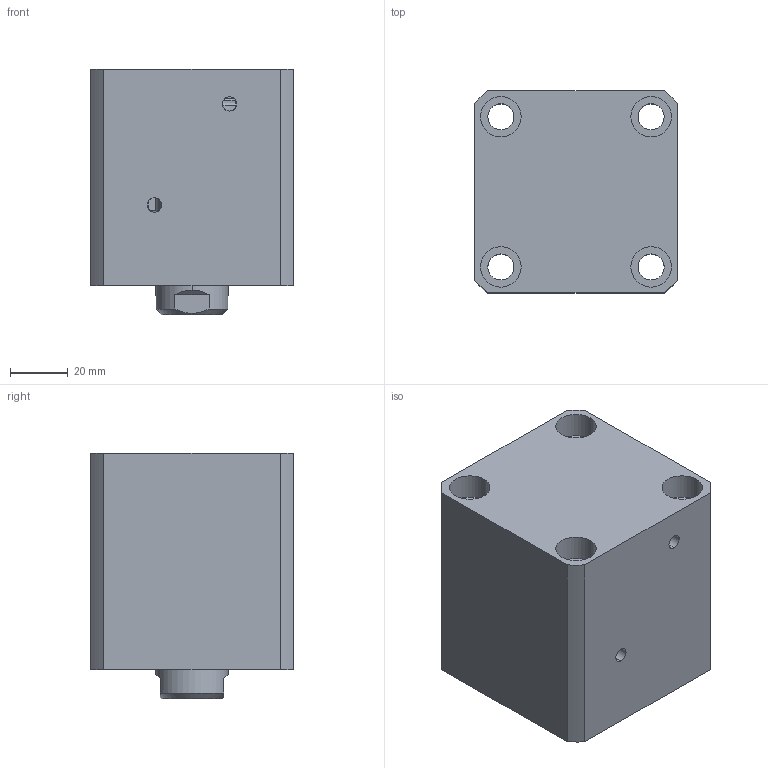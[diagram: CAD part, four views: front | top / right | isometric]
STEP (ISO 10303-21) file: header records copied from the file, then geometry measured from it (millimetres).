
FILE_DESCRIPTION (( 'STEP AP214' ), '1' );
FILE_NAME ('chtb-sdma40x20n_asm.STEP', '2018-06-06T07:42:57', ( 'Windows' ), ( 'Microsoft' ), 'SwSTEP 2.0', 'SolidWorks 2015', '' );
FILE_SCHEMA (( 'AUTOMOTIVE_DESIGN' ));
Length unit declared in the file: millimetre
Products named in the file (4): chtb-sdma40x20n_asm; CHTB-SDMA40X20NBT; CHTB-SD40X20NHSG; CHTB-SD40QG
Assembly tree (3 placements, depth 2):
  chtb-sdma40x20n_asm
    CHTB-SD40QG
    CHTB-SD40X20NHSG
    CHTB-SDMA40X20NBT
Bounding box: 70 x 70 x 85 mm (x, y, z)
Volume: 317541.8 mm3; surface area: 71289.4 mm2
Topology: 3 solids, 3 shells, 157 faces, 413 edges, 274 vertices
Faces by surface type: cylinder 84, plane 36, bspline 14, torus 14, cone 9
Entity records: 10139 total; most frequent: CARTESIAN_POINT 6157, ORIENTED_EDGE 814, DIRECTION 768, EDGE_CURVE 407, AXIS2_PLACEMENT_3D 326, VERTEX_POINT 274, EDGE_LOOP 193, CIRCLE 177
